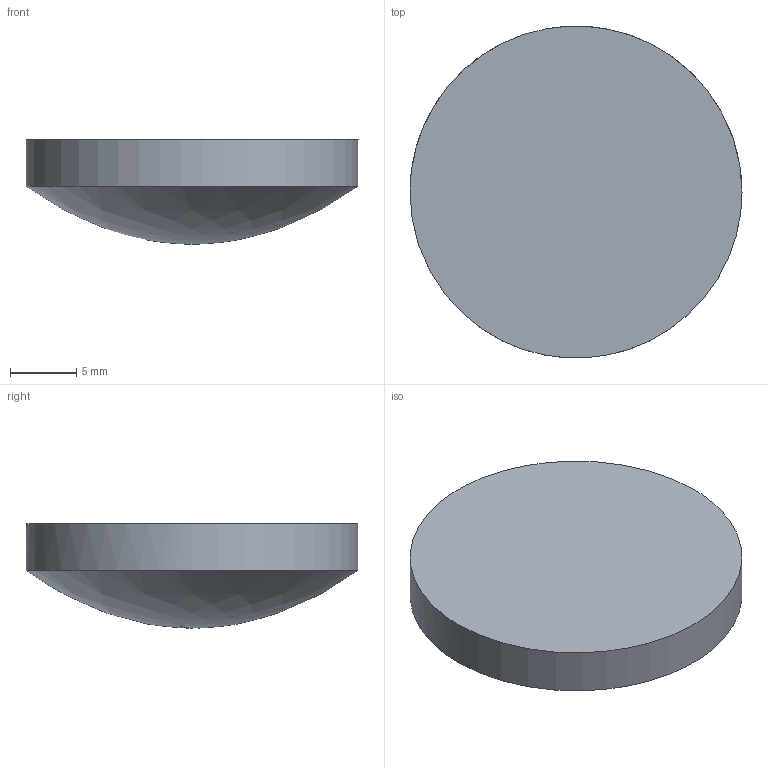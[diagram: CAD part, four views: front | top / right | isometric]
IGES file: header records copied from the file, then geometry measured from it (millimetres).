
Global section: file name: AGL-25-G※-24P,2; native system: 2HAutodesk Inventor 2015; preprocessor: unknown; author: r.osada; date: 20161207.175544; units: millimetre
Bounding box: 25 x 24.98 x 7.85 mm (x, y, z)
Volume: 2801.1 mm3; surface area: 1313.2 mm2
Topology: 1 solids, 1 shells, 3 faces, 7 edges, 5 vertices
Faces by surface type: bspline 3
